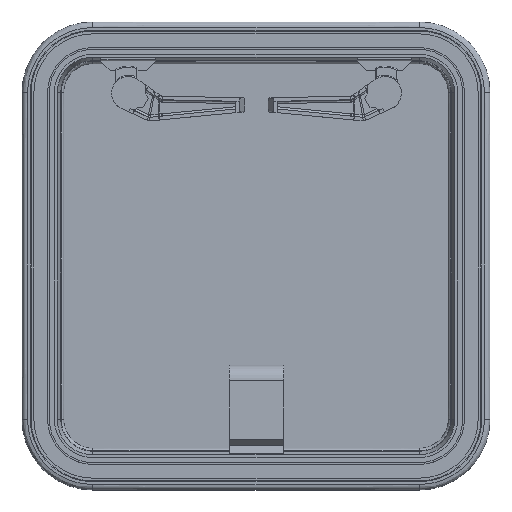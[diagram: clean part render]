
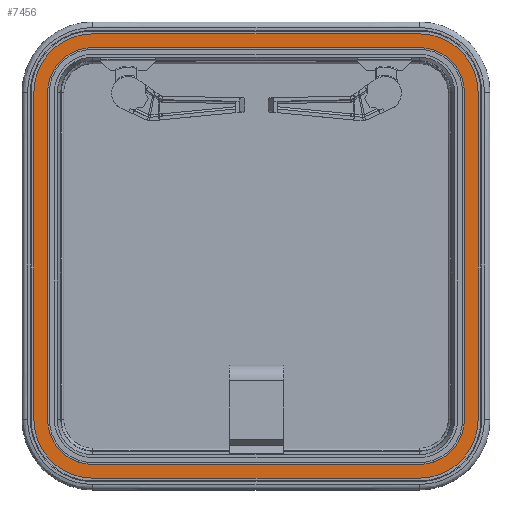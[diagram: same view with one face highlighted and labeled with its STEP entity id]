
A CAD part, top view. The second image highlights one B-rep face of the part: STEP entity #7456.
In plain terms, the highlighted planar face has unit normal (0, 0, 1) as drawn and (0, 0, -1) by its records, which use the part's own axes.
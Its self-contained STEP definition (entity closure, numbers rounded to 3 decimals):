
#1553=DIRECTION('',(1.,0.,0.));
#1554=VECTOR('',#1553,358.);
#1555=CARTESIAN_POINT('',(77.5,28.,-1.5));
#1556=LINE('',#1555,#1554);
#1561=CARTESIAN_POINT('',(77.5,77.5,-1.5));
#1562=DIRECTION('',(0.,0.,1.));
#1563=DIRECTION('',(-1.,0.,0.));
#1564=AXIS2_PLACEMENT_3D('',#1561,#1562,#1563);
#1574=DIRECTION('',(0.,-1.,0.));
#1575=VECTOR('',#1574,358.);
#1576=CARTESIAN_POINT('',(28.,435.5,-1.5));
#1577=LINE('',#1576,#1575);
#1582=CARTESIAN_POINT('',(77.5,435.5,-1.5));
#1583=DIRECTION('',(0.,0.,1.));
#1584=DIRECTION('',(0.,1.,0.));
#1585=AXIS2_PLACEMENT_3D('',#1582,#1583,#1584);
#1591=DIRECTION('',(-1.,0.,0.));
#1592=VECTOR('',#1591,358.);
#1593=CARTESIAN_POINT('',(435.5,485.,-1.5));
#1594=LINE('',#1593,#1592);
#1599=CARTESIAN_POINT('',(435.5,435.5,-1.5));
#1600=DIRECTION('',(0.,0.,1.));
#1601=DIRECTION('',(1.,0.,0.));
#1602=AXIS2_PLACEMENT_3D('',#1599,#1600,#1601);
#1608=DIRECTION('',(0.,1.,0.));
#1609=VECTOR('',#1608,358.);
#1610=CARTESIAN_POINT('',(485.,77.5,-1.5));
#1611=LINE('',#1610,#1609);
#1616=CARTESIAN_POINT('',(435.5,77.5,-1.5));
#1617=DIRECTION('',(0.,0.,1.));
#1618=DIRECTION('',(0.,-1.,0.));
#1619=AXIS2_PLACEMENT_3D('',#1616,#1617,#1618);
#1621=DIRECTION('',(1.,0.,0.));
#1622=VECTOR('',#1621,358.);
#1623=CARTESIAN_POINT('',(77.5,13.,-1.5));
#1624=LINE('',#1623,#1622);
#1625=CARTESIAN_POINT('',(435.5,77.5,-1.5));
#1626=DIRECTION('',(0.,0.,1.));
#1627=DIRECTION('',(0.,-1.,0.));
#1628=AXIS2_PLACEMENT_3D('',#1625,#1626,#1627);
#1630=DIRECTION('',(0.,1.,0.));
#1631=VECTOR('',#1630,358.);
#1632=CARTESIAN_POINT('',(500.,77.5,-1.5));
#1633=LINE('',#1632,#1631);
#1634=CARTESIAN_POINT('',(435.5,435.5,-1.5));
#1635=DIRECTION('',(0.,0.,1.));
#1636=DIRECTION('',(1.,0.,0.));
#1637=AXIS2_PLACEMENT_3D('',#1634,#1635,#1636);
#1639=DIRECTION('',(-1.,0.,0.));
#1640=VECTOR('',#1639,358.);
#1641=CARTESIAN_POINT('',(435.5,500.,-1.5));
#1642=LINE('',#1641,#1640);
#1643=CARTESIAN_POINT('',(77.5,435.5,-1.5));
#1644=DIRECTION('',(0.,0.,1.));
#1645=DIRECTION('',(0.,1.,0.));
#1646=AXIS2_PLACEMENT_3D('',#1643,#1644,#1645);
#1648=DIRECTION('',(0.,-1.,0.));
#1649=VECTOR('',#1648,358.);
#1650=CARTESIAN_POINT('',(13.,435.5,-1.5));
#1651=LINE('',#1650,#1649);
#1652=CARTESIAN_POINT('',(77.5,77.5,-1.5));
#1653=DIRECTION('',(0.,0.,1.));
#1654=DIRECTION('',(-1.,0.,0.));
#1655=AXIS2_PLACEMENT_3D('',#1652,#1653,#1654);
#2037=CARTESIAN_POINT('',(77.5,13.,-1.5));
#2039=VERTEX_POINT('',#2037);
#2040=CARTESIAN_POINT('',(77.5,28.,-1.5));
#2042=VERTEX_POINT('',#2040);
#2078=CARTESIAN_POINT('',(435.5,13.,-1.5));
#2080=VERTEX_POINT('',#2078);
#2081=CARTESIAN_POINT('',(435.5,28.,-1.5));
#2083=VERTEX_POINT('',#2081);
#2119=CARTESIAN_POINT('',(500.,77.5,-1.5));
#2121=VERTEX_POINT('',#2119);
#2122=CARTESIAN_POINT('',(485.,77.5,-1.5));
#2124=VERTEX_POINT('',#2122);
#2160=CARTESIAN_POINT('',(500.,435.5,-1.5));
#2162=VERTEX_POINT('',#2160);
#2163=CARTESIAN_POINT('',(485.,435.5,-1.5));
#2165=VERTEX_POINT('',#2163);
#2201=CARTESIAN_POINT('',(435.5,500.,-1.5));
#2203=VERTEX_POINT('',#2201);
#2204=CARTESIAN_POINT('',(435.5,485.,-1.5));
#2206=VERTEX_POINT('',#2204);
#2242=CARTESIAN_POINT('',(77.5,500.,-1.5));
#2244=VERTEX_POINT('',#2242);
#2245=CARTESIAN_POINT('',(77.5,485.,-1.5));
#2247=VERTEX_POINT('',#2245);
#2283=CARTESIAN_POINT('',(13.,435.5,-1.5));
#2285=VERTEX_POINT('',#2283);
#2286=CARTESIAN_POINT('',(28.,435.5,-1.5));
#2288=VERTEX_POINT('',#2286);
#2324=CARTESIAN_POINT('',(13.,77.5,-1.5));
#2326=VERTEX_POINT('',#2324);
#2327=CARTESIAN_POINT('',(28.,77.5,-1.5));
#2329=VERTEX_POINT('',#2327);
#7423=CARTESIAN_POINT('',(256.5,20.5,-1.5));
#7424=DIRECTION('',(0.,0.,1.));
#7425=DIRECTION('',(0.,1.,0.));
#7426=AXIS2_PLACEMENT_3D('',#7423,#7424,#7425);
#7427=PLANE('',#7426);
#7429=ORIENTED_EDGE('',*,*,#7428,.T.);
#7431=ORIENTED_EDGE('',*,*,#7430,.T.);
#7433=ORIENTED_EDGE('',*,*,#7432,.T.);
#7435=ORIENTED_EDGE('',*,*,#7434,.T.);
#7437=ORIENTED_EDGE('',*,*,#7436,.T.);
#7439=ORIENTED_EDGE('',*,*,#7438,.T.);
#7441=ORIENTED_EDGE('',*,*,#7440,.T.);
#7443=ORIENTED_EDGE('',*,*,#7442,.T.);
#7444=EDGE_LOOP('',(#7429,#7431,#7433,#7435,#7437,#7439,#7441,#7443));
#7445=FACE_OUTER_BOUND('',#7444,.F.);
#7446=ORIENTED_EDGE('',*,*,#7333,.F.);
#7447=ORIENTED_EDGE('',*,*,#7347,.F.);
#7448=ORIENTED_EDGE('',*,*,#7361,.F.);
#7449=ORIENTED_EDGE('',*,*,#7375,.F.);
#7450=ORIENTED_EDGE('',*,*,#7389,.F.);
#7451=ORIENTED_EDGE('',*,*,#7403,.F.);
#7452=ORIENTED_EDGE('',*,*,#7416,.F.);
#7453=ORIENTED_EDGE('',*,*,#7318,.F.);
#7454=EDGE_LOOP('',(#7446,#7447,#7448,#7449,#7450,#7451,#7452,#7453));
#7455=FACE_BOUND('',#7454,.F.);
#7456=ADVANCED_FACE('',(#7445,#7455),#7427,.F.);
#1565=CIRCLE('',#1564,49.5);
#1586=CIRCLE('',#1585,49.5);
#1603=CIRCLE('',#1602,49.5);
#1620=CIRCLE('',#1619,49.5);
#1629=CIRCLE('',#1628,64.5);
#1638=CIRCLE('',#1637,64.5);
#1647=CIRCLE('',#1646,64.5);
#1656=CIRCLE('',#1655,64.5);
#7318=EDGE_CURVE('',#2042,#2083,#1556,.T.);
#7333=EDGE_CURVE('',#2329,#2042,#1565,.T.);
#7347=EDGE_CURVE('',#2288,#2329,#1577,.T.);
#7361=EDGE_CURVE('',#2247,#2288,#1586,.T.);
#7375=EDGE_CURVE('',#2206,#2247,#1594,.T.);
#7389=EDGE_CURVE('',#2165,#2206,#1603,.T.);
#7403=EDGE_CURVE('',#2124,#2165,#1611,.T.);
#7416=EDGE_CURVE('',#2083,#2124,#1620,.T.);
#7428=EDGE_CURVE('',#2039,#2080,#1624,.T.);
#7430=EDGE_CURVE('',#2080,#2121,#1629,.T.);
#7432=EDGE_CURVE('',#2121,#2162,#1633,.T.);
#7434=EDGE_CURVE('',#2162,#2203,#1638,.T.);
#7436=EDGE_CURVE('',#2203,#2244,#1642,.T.);
#7438=EDGE_CURVE('',#2244,#2285,#1647,.T.);
#7440=EDGE_CURVE('',#2285,#2326,#1651,.T.);
#7442=EDGE_CURVE('',#2326,#2039,#1656,.T.);
